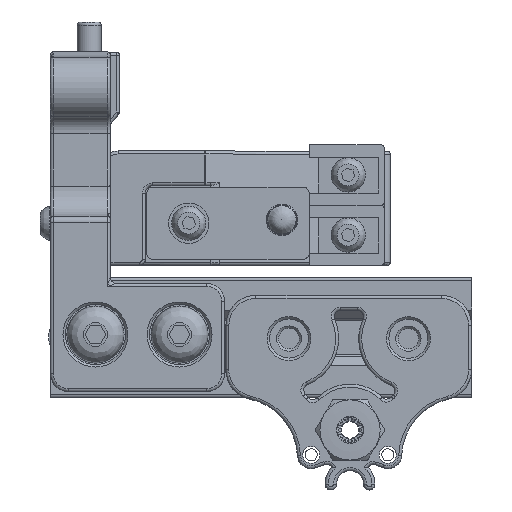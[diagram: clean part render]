
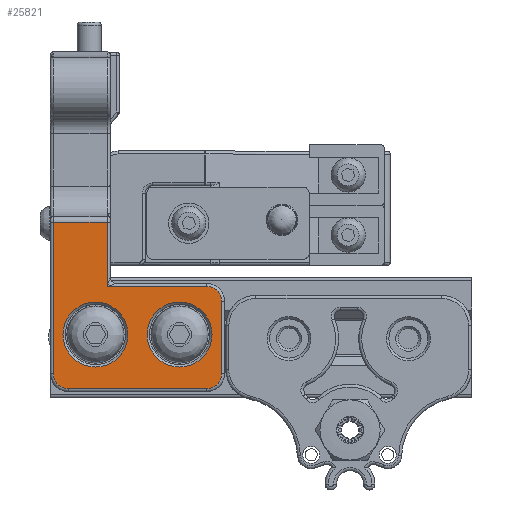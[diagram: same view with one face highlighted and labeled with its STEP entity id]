
A CAD part, top view. The second image highlights one B-rep face of the part: STEP entity #25821.
In plain terms, the highlighted planar face has unit normal (0, 0, 1).
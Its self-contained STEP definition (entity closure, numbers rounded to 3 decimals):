
#735=FACE_BOUND('',#8186,.T.);
#736=FACE_BOUND('',#8187,.T.);
#1966=PLANE('',#28258);
#2956=LINE('',#82904,#4428);
#2957=LINE('',#82916,#4429);
#2958=LINE('',#82923,#4430);
#2960=LINE('',#82927,#4432);
#2961=LINE('',#82929,#4433);
#2962=LINE('',#82932,#4434);
#4428=VECTOR('',#33149,10.);
#4429=VECTOR('',#33162,10.);
#4430=VECTOR('',#33173,10.);
#4432=VECTOR('',#33177,1.);
#4433=VECTOR('',#33178,10.);
#4434=VECTOR('',#33181,10.);
#6561=FACE_OUTER_BOUND('',#8185,.T.);
#8185=EDGE_LOOP('',(#21010,#21011,#21012,#21013,#21014,#21015,#21016,#21017,
#21018));
#8186=EDGE_LOOP('',(#21019));
#8187=EDGE_LOOP('',(#21020));
#9618=CIRCLE('',#28251,2.5);
#9621=CIRCLE('',#28256,2.5);
#9622=CIRCLE('',#28259,2.5);
#9623=CIRCLE('',#28260,5.4);
#9624=CIRCLE('',#28261,5.4);
#11750=VERTEX_POINT('',#82519);
#11850=VERTEX_POINT('',#82902);
#11851=VERTEX_POINT('',#82906);
#11854=VERTEX_POINT('',#82911);
#11855=VERTEX_POINT('',#82915);
#11856=VERTEX_POINT('',#82919);
#11857=VERTEX_POINT('',#82926);
#11858=VERTEX_POINT('',#82928);
#11859=VERTEX_POINT('',#82930);
#11860=VERTEX_POINT('',#82933);
#11861=VERTEX_POINT('',#82935);
#15047=EDGE_CURVE('',#11850,#11750,#2956,.T.);
#15051=EDGE_CURVE('',#11854,#11851,#9618,.T.);
#15052=EDGE_CURVE('',#11750,#11855,#2957,.T.);
#15055=EDGE_CURVE('',#11855,#11856,#9621,.T.);
#15056=EDGE_CURVE('',#11856,#11854,#2958,.T.);
#15058=EDGE_CURVE('',#11857,#11850,#2960,.T.);
#15059=EDGE_CURVE('',#11858,#11857,#2961,.T.);
#15060=EDGE_CURVE('',#11859,#11858,#9622,.T.);
#15061=EDGE_CURVE('',#11851,#11859,#2962,.T.);
#15062=EDGE_CURVE('',#11860,#11860,#9623,.T.);
#15063=EDGE_CURVE('',#11861,#11861,#9624,.T.);
#21010=ORIENTED_EDGE('',*,*,#15051,.F.);
#21011=ORIENTED_EDGE('',*,*,#15056,.F.);
#21012=ORIENTED_EDGE('',*,*,#15055,.F.);
#21013=ORIENTED_EDGE('',*,*,#15052,.F.);
#21014=ORIENTED_EDGE('',*,*,#15047,.F.);
#21015=ORIENTED_EDGE('',*,*,#15058,.F.);
#21016=ORIENTED_EDGE('',*,*,#15059,.F.);
#21017=ORIENTED_EDGE('',*,*,#15060,.F.);
#21018=ORIENTED_EDGE('',*,*,#15061,.F.);
#21019=ORIENTED_EDGE('',*,*,#15062,.F.);
#21020=ORIENTED_EDGE('',*,*,#15063,.F.);
#25821=ADVANCED_FACE('',(#6561,#735,#736),#1966,.F.);
#28251=AXIS2_PLACEMENT_3D('',#82913,#33158,#33159);
#28256=AXIS2_PLACEMENT_3D('',#82921,#33169,#33170);
#28258=AXIS2_PLACEMENT_3D('',#82925,#33175,#33176);
#28259=AXIS2_PLACEMENT_3D('',#82931,#33179,#33180);
#28260=AXIS2_PLACEMENT_3D('',#82934,#33182,#33183);
#28261=AXIS2_PLACEMENT_3D('',#82936,#33184,#33185);
#33149=DIRECTION('',(0.,-1.,0.));
#33158=DIRECTION('center_axis',(0.,0.,
-1.));
#33159=DIRECTION('ref_axis',(0.881,-0.473,0.));
#33162=DIRECTION('',(1.,0.,0.));
#33169=DIRECTION('center_axis',(0.,0.,
-1.));
#33170=DIRECTION('ref_axis',(0.707,0.707,0.));
#33173=DIRECTION('',(0.,-1.,0.));
#33175=DIRECTION('center_axis',(0.,0.,
-1.));
#33176=DIRECTION('ref_axis',(0.,-1.,0.));
#33177=DIRECTION('',(1.,0.,0.));
#33178=DIRECTION('',(0.,1.,0.));
#33179=DIRECTION('center_axis',(0.,0.,
-1.));
#33180=DIRECTION('ref_axis',(-0.473,-0.881,0.));
#33181=DIRECTION('',(-1.,0.,0.));
#33182=DIRECTION('center_axis',(0.,0.,
1.));
#33183=DIRECTION('ref_axis',(-1.,0.,0.));
#33184=DIRECTION('center_axis',(0.,0.,
1.));
#33185=DIRECTION('ref_axis',(-1.,0.,0.));
#82519=CARTESIAN_POINT('',(-25.218,45.852,34.65));
#82902=CARTESIAN_POINT('',(-25.218,56.52,34.65));
#82904=CARTESIAN_POINT('',(-25.218,49.061,34.65));
#82906=CARTESIAN_POINT('',(-8.718,28.852,34.65));
#82911=CARTESIAN_POINT('',(-6.218,31.352,34.65));
#82913=CARTESIAN_POINT('Origin',(-8.718,31.352,34.65));
#82915=CARTESIAN_POINT('',(-8.718,45.852,34.65));
#82916=CARTESIAN_POINT('',(-24.968,45.852,34.65));
#82919=CARTESIAN_POINT('',(-6.218,43.352,34.65));
#82921=CARTESIAN_POINT('Origin',(-8.718,43.352,34.65));
#82923=CARTESIAN_POINT('',(-6.218,52.436,34.65));
#82925=CARTESIAN_POINT('Origin',(-24.718,57.52,34.65));
#82926=CARTESIAN_POINT('',(-34.178,56.52,34.65));
#82927=CARTESIAN_POINT('',(-23.961,56.52,34.65));
#82928=CARTESIAN_POINT('',(-34.178,31.352,34.65));
#82929=CARTESIAN_POINT('',(-34.178,64.751,34.65));
#82930=CARTESIAN_POINT('',(-31.678,28.852,34.65));
#82931=CARTESIAN_POINT('Origin',(-31.678,31.352,34.65));
#82932=CARTESIAN_POINT('',(-15.218,28.852,34.65));
#82933=CARTESIAN_POINT('',(-7.808,37.852,34.65));
#82934=CARTESIAN_POINT('Origin',(-13.208,37.852,34.65));
#82935=CARTESIAN_POINT('',(-21.788,37.852,34.65));
#82936=CARTESIAN_POINT('Origin',(-27.188,37.852,34.65));
